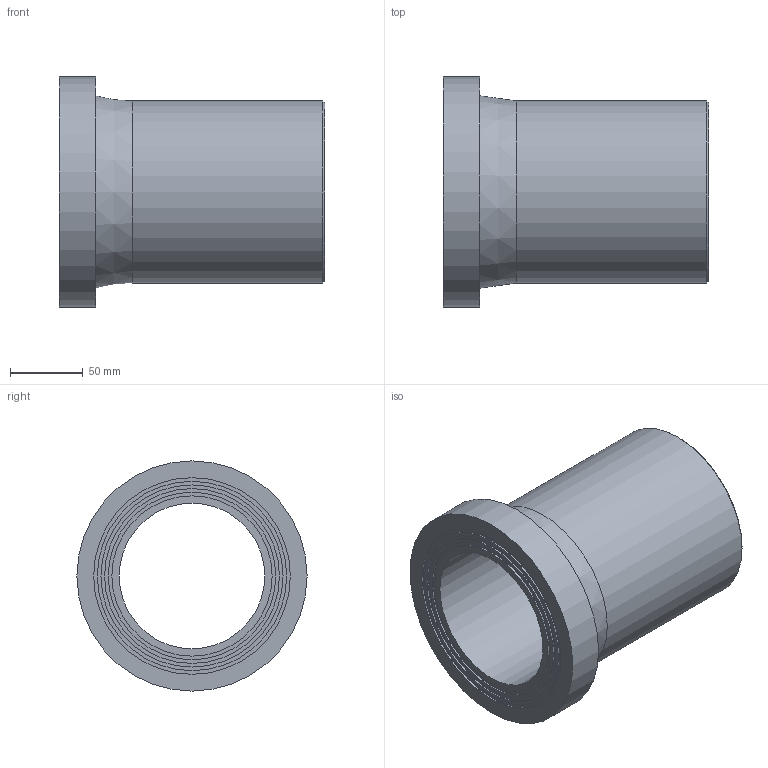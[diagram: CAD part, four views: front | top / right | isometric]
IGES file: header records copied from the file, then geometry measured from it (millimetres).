
Global section: file name: 490207125.ipt; native system: Autodesk Inventor 2015; preprocessor: unknown; author: Кирилл,,11,0; organization: 20170718.095537; date: 20190331.185820; units: millimetre
Bounding box: 182 x 158 x 158 mm (x, y, z)
Volume: 1001010.8 mm3; surface area: 156302.6 mm2
Topology: 1 solids, 1 shells, 20 faces, 33 edges, 22 vertices
Faces by surface type: plane 9, cylinder 5, revolution 4, cone 2
Full cylindrical faces by diameter (mm): 110 x1, 120 x1, 125 x1, 130 x1, 158 x1
